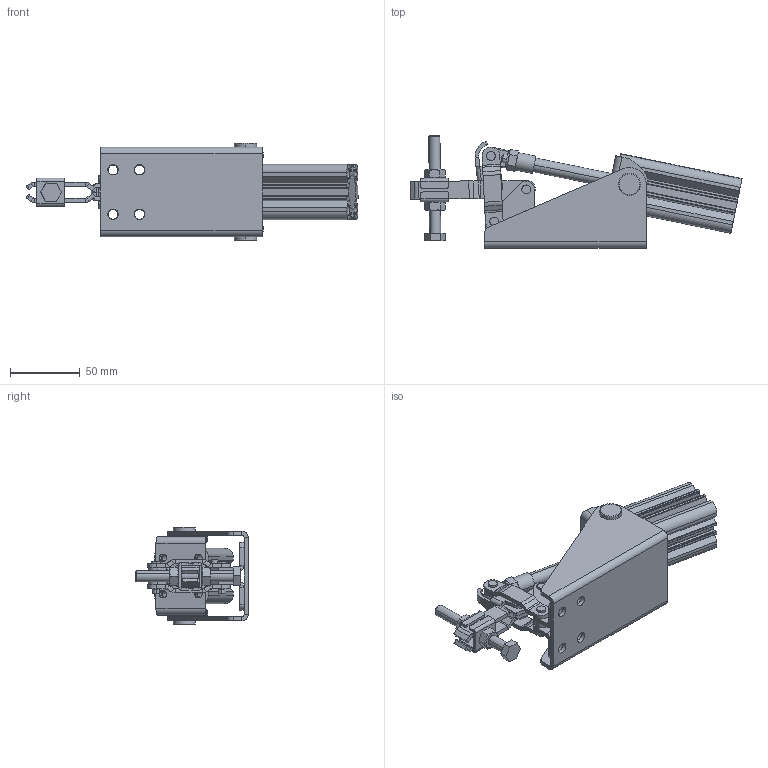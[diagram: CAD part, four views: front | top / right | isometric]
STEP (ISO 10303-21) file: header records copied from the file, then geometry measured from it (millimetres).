
FILE_DESCRIPTION (( 'STEP AP203' ), '1' );
FILE_NAME ('KF-017 DB P.STEP', '2016-12-15T10:46:37', ( 'Ricardo' ), ( '' ), 'SwSTEP 2.0', 'SolidWorks 2015', '' );
FILE_SCHEMA (( 'CONFIG_CONTROL_DESIGN' ));
Length unit declared in the file: millimetre
Products named in the file (22): 15.10054; 04.10001; 15.20007; 05.20017; 16.20068; 06.50001; 01.10008; 1 PC 21287; 06.50002; 02.12001_Direita; 2 PC 21287; 11.50002; 02.12001_Esquerda; 3 PC 21287; 12.50003; 03.13009_Direita; 2800250500XP_avan㌢do; 14.10001; 03.13009_Esquerda; KF-017 DB P; 15.10053; 04.20001
Assembly tree (27 placements, depth 3):
  KF-017 DB P
    01.10008  x2
    02.12001_Direita
    02.12001_Esquerda
    03.13009_Direita
    03.13009_Esquerda
    04.20001
    04.10001
    05.20017
    06.50001  x2
    06.50002  x2
    11.50002  x2
    12.50003
    14.10001  x2
    15.10053
    15.10054
    15.20007
    16.20068  x2
    2800250500XP_avan㌢do
      1 PC 21287
      2 PC 21287
      3 PC 21287
Bounding box: 238.09 x 80.69 x 70 mm (x, y, z)
Volume: 174309.4 mm3; surface area: 113070.8 mm2
Topology: 26 solids, 26 shells, 773 faces, 1806 edges, 1107 vertices
Faces by surface type: plane 369, cylinder 321, cone 80, torus 2, sphere 1
Entity records: 21399 total; most frequent: DIRECTION 3465, CARTESIAN_POINT 3379, ORIENTED_EDGE 3054, EDGE_CURVE 1527, AXIS2_PLACEMENT_3D 1301, VERTEX_POINT 947, LINE 863, VECTOR 863
